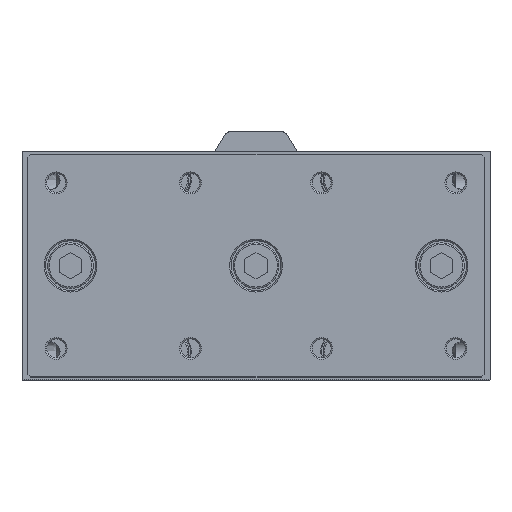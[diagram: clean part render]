
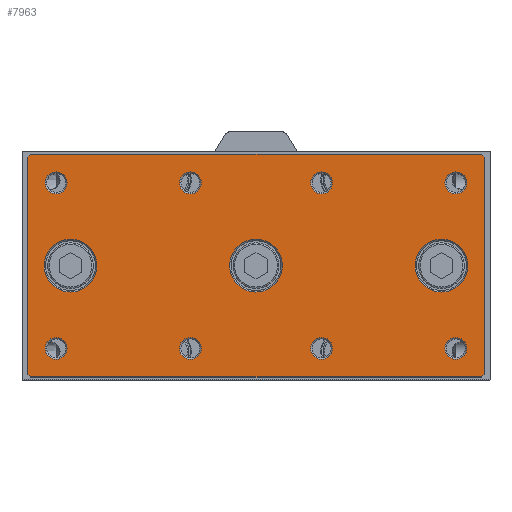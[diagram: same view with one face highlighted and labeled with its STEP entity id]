
A CAD part, top view. The second image highlights one B-rep face of the part: STEP entity #7963.
In plain terms, the highlighted planar face has unit normal (0, 0, 1).
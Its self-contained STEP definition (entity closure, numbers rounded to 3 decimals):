
#7745=CARTESIAN_POINT('',(-78.641,-40.316,225.5));
#7746=VERTEX_POINT('',#7745);
#7747=CARTESIAN_POINT('',(-79.641,-39.316,225.5));
#7748=VERTEX_POINT('',#7747);
#7749=CARTESIAN_POINT('',(-78.641,-40.316,225.5));
#7750=DIRECTION('',(-0.707,0.707,0.0));
#7751=VECTOR('',#7750,1.414);
#7752=LINE('',#7749,#7751);
#7753=EDGE_CURVE('',#7746,#7748,#7752,.T.);
#7780=CARTESIAN_POINT('',(0.359,-1.316,225.5));
#7781=DIRECTION('',(0.0,0.0,1.0));
#7782=DIRECTION('',(1.0,0.0,0.0));
#7783=AXIS2_PLACEMENT_3D('',#7780,#7781,#7782);
#7784=PLANE('',#7783);
#7785=ORIENTED_EDGE('',*,*,#7753,.F.);
#7786=CARTESIAN_POINT('',(79.359,-40.316,225.5));
#7787=VERTEX_POINT('',#7786);
#7788=CARTESIAN_POINT('',(79.359,-40.316,225.5));
#7789=DIRECTION('',(-1.0,0.0,0.0));
#7790=VECTOR('',#7789,158.0);
#7791=LINE('',#7788,#7790);
#7792=EDGE_CURVE('',#7787,#7746,#7791,.T.);
#7793=ORIENTED_EDGE('',*,*,#7792,.F.);
#7794=CARTESIAN_POINT('',(80.359,-39.316,225.5));
#7795=VERTEX_POINT('',#7794);
#7796=CARTESIAN_POINT('',(80.359,-39.316,225.5));
#7797=DIRECTION('',(-0.707,-0.707,0.0));
#7798=VECTOR('',#7797,1.414);
#7799=LINE('',#7796,#7798);
#7800=EDGE_CURVE('',#7795,#7787,#7799,.T.);
#7801=ORIENTED_EDGE('',*,*,#7800,.F.);
#7802=CARTESIAN_POINT('',(80.359,36.684,225.5));
#7803=VERTEX_POINT('',#7802);
#7804=CARTESIAN_POINT('',(80.359,36.684,225.5));
#7805=DIRECTION('',(0.0,-1.0,0.0));
#7806=VECTOR('',#7805,76.);
#7807=LINE('',#7804,#7806);
#7808=EDGE_CURVE('',#7803,#7795,#7807,.T.);
#7809=ORIENTED_EDGE('',*,*,#7808,.F.);
#7810=CARTESIAN_POINT('',(79.359,37.684,225.5));
#7811=VERTEX_POINT('',#7810);
#7812=CARTESIAN_POINT('',(79.359,37.684,225.5));
#7813=DIRECTION('',(0.707,-0.707,0.0));
#7814=VECTOR('',#7813,1.414);
#7815=LINE('',#7812,#7814);
#7816=EDGE_CURVE('',#7811,#7803,#7815,.T.);
#7817=ORIENTED_EDGE('',*,*,#7816,.F.);
#7818=CARTESIAN_POINT('',(-78.641,37.684,225.5));
#7819=VERTEX_POINT('',#7818);
#7820=CARTESIAN_POINT('',(-78.641,37.684,225.5));
#7821=DIRECTION('',(1.0,0.0,0.0));
#7822=VECTOR('',#7821,158.0);
#7823=LINE('',#7820,#7822);
#7824=EDGE_CURVE('',#7819,#7811,#7823,.T.);
#7825=ORIENTED_EDGE('',*,*,#7824,.F.);
#7826=CARTESIAN_POINT('',(-79.641,36.684,225.5));
#7827=VERTEX_POINT('',#7826);
#7828=CARTESIAN_POINT('',(-79.641,36.684,225.5));
#7829=DIRECTION('',(0.707,0.707,0.0));
#7830=VECTOR('',#7829,1.414);
#7831=LINE('',#7828,#7830);
#7832=EDGE_CURVE('',#7827,#7819,#7831,.T.);
#7833=ORIENTED_EDGE('',*,*,#7832,.F.);
#7834=CARTESIAN_POINT('',(-79.641,-39.316,225.5));
#7835=DIRECTION('',(0.0,1.0,0.0));
#7836=VECTOR('',#7835,76.0);
#7837=LINE('',#7834,#7836);
#7838=EDGE_CURVE('',#7748,#7827,#7837,.T.);
#7839=ORIENTED_EDGE('',*,*,#7838,.F.);
#7840=EDGE_LOOP('',(#7785,#7793,#7801,#7809,#7817,#7825,#7833,#7839));
#7841=FACE_OUTER_BOUND('',#7840,.T.);
#7842=CARTESIAN_POINT('',(-65.818,27.684,225.5));
#7843=VERTEX_POINT('',#7842);
#7844=CARTESIAN_POINT('',(-69.641,27.684,225.5));
#7845=DIRECTION('',(0.0,0.0,1.0));
#7846=DIRECTION('',(-1.0,0.0,0.0));
#7847=AXIS2_PLACEMENT_3D('',#7844,#7845,#7846);
#7848=CIRCLE('',#7847,3.823);
#7849=EDGE_CURVE('',#7843,#7843,#7848,.T.);
#7850=ORIENTED_EDGE('',*,*,#7849,.F.);
#7851=EDGE_LOOP('',(#7850));
#7852=FACE_BOUND('',#7851,.T.);
#7853=CARTESIAN_POINT('',(-18.818,27.684,225.5));
#7854=VERTEX_POINT('',#7853);
#7855=CARTESIAN_POINT('',(-22.641,27.684,225.5));
#7856=DIRECTION('',(0.0,0.0,1.0));
#7857=DIRECTION('',(-1.0,0.0,0.0));
#7858=AXIS2_PLACEMENT_3D('',#7855,#7856,#7857);
#7859=CIRCLE('',#7858,3.823);
#7860=EDGE_CURVE('',#7854,#7854,#7859,.T.);
#7861=ORIENTED_EDGE('',*,*,#7860,.F.);
#7862=EDGE_LOOP('',(#7861));
#7863=FACE_BOUND('',#7862,.T.);
#7864=CARTESIAN_POINT('',(9.609,-1.316,225.5));
#7865=VERTEX_POINT('',#7864);
#7866=CARTESIAN_POINT('',(0.359,-1.316,225.5));
#7867=DIRECTION('',(0.0,0.0,1.0));
#7868=DIRECTION('',(-1.0,0.0,0.0));
#7869=AXIS2_PLACEMENT_3D('',#7866,#7867,#7868);
#7870=CIRCLE('',#7869,9.25);
#7871=EDGE_CURVE('',#7865,#7865,#7870,.T.);
#7872=ORIENTED_EDGE('',*,*,#7871,.F.);
#7873=EDGE_LOOP('',(#7872));
#7874=FACE_BOUND('',#7873,.T.);
#7875=CARTESIAN_POINT('',(74.609,-1.316,225.5));
#7876=VERTEX_POINT('',#7875);
#7877=CARTESIAN_POINT('',(65.359,-1.316,225.5));
#7878=DIRECTION('',(0.0,0.0,1.0));
#7879=DIRECTION('',(-1.0,0.0,0.0));
#7880=AXIS2_PLACEMENT_3D('',#7877,#7878,#7879);
#7881=CIRCLE('',#7880,9.25);
#7882=EDGE_CURVE('',#7876,#7876,#7881,.T.);
#7883=ORIENTED_EDGE('',*,*,#7882,.F.);
#7884=EDGE_LOOP('',(#7883));
#7885=FACE_BOUND('',#7884,.T.);
#7886=CARTESIAN_POINT('',(-55.391,-1.316,225.5));
#7887=VERTEX_POINT('',#7886);
#7888=CARTESIAN_POINT('',(-64.641,-1.316,225.5));
#7889=DIRECTION('',(0.0,0.0,1.0));
#7890=DIRECTION('',(-1.0,0.0,0.0));
#7891=AXIS2_PLACEMENT_3D('',#7888,#7889,#7890);
#7892=CIRCLE('',#7891,9.25);
#7893=EDGE_CURVE('',#7887,#7887,#7892,.T.);
#7894=ORIENTED_EDGE('',*,*,#7893,.F.);
#7895=EDGE_LOOP('',(#7894));
#7896=FACE_BOUND('',#7895,.T.);
#7897=CARTESIAN_POINT('',(74.182,-30.316,225.5));
#7898=VERTEX_POINT('',#7897);
#7899=CARTESIAN_POINT('',(70.359,-30.316,225.5));
#7900=DIRECTION('',(0.0,0.0,1.0));
#7901=DIRECTION('',(-1.0,0.0,0.0));
#7902=AXIS2_PLACEMENT_3D('',#7899,#7900,#7901);
#7903=CIRCLE('',#7902,3.823);
#7904=EDGE_CURVE('',#7898,#7898,#7903,.T.);
#7905=ORIENTED_EDGE('',*,*,#7904,.F.);
#7906=EDGE_LOOP('',(#7905));
#7907=FACE_BOUND('',#7906,.T.);
#7908=CARTESIAN_POINT('',(-65.818,-30.316,225.5));
#7909=VERTEX_POINT('',#7908);
#7910=CARTESIAN_POINT('',(-69.641,-30.316,225.5));
#7911=DIRECTION('',(0.0,0.0,1.0));
#7912=DIRECTION('',(-1.0,0.0,0.0));
#7913=AXIS2_PLACEMENT_3D('',#7910,#7911,#7912);
#7914=CIRCLE('',#7913,3.823);
#7915=EDGE_CURVE('',#7909,#7909,#7914,.T.);
#7916=ORIENTED_EDGE('',*,*,#7915,.F.);
#7917=EDGE_LOOP('',(#7916));
#7918=FACE_BOUND('',#7917,.T.);
#7919=CARTESIAN_POINT('',(74.182,27.684,225.5));
#7920=VERTEX_POINT('',#7919);
#7921=CARTESIAN_POINT('',(70.359,27.684,225.5));
#7922=DIRECTION('',(0.0,0.0,1.0));
#7923=DIRECTION('',(-1.0,0.0,0.0));
#7924=AXIS2_PLACEMENT_3D('',#7921,#7922,#7923);
#7925=CIRCLE('',#7924,3.823);
#7926=EDGE_CURVE('',#7920,#7920,#7925,.T.);
#7927=ORIENTED_EDGE('',*,*,#7926,.F.);
#7928=EDGE_LOOP('',(#7927));
#7929=FACE_BOUND('',#7928,.T.);
#7930=CARTESIAN_POINT('',(27.182,-30.316,225.5));
#7931=VERTEX_POINT('',#7930);
#7932=CARTESIAN_POINT('',(23.359,-30.316,225.5));
#7933=DIRECTION('',(0.0,0.0,1.0));
#7934=DIRECTION('',(-1.0,0.0,0.0));
#7935=AXIS2_PLACEMENT_3D('',#7932,#7933,#7934);
#7936=CIRCLE('',#7935,3.824);
#7937=EDGE_CURVE('',#7931,#7931,#7936,.T.);
#7938=ORIENTED_EDGE('',*,*,#7937,.F.);
#7939=EDGE_LOOP('',(#7938));
#7940=FACE_BOUND('',#7939,.T.);
#7941=CARTESIAN_POINT('',(-18.818,-30.316,225.5));
#7942=VERTEX_POINT('',#7941);
#7943=CARTESIAN_POINT('',(-22.641,-30.316,225.5));
#7944=DIRECTION('',(0.0,0.0,1.0));
#7945=DIRECTION('',(-1.0,0.0,0.0));
#7946=AXIS2_PLACEMENT_3D('',#7943,#7944,#7945);
#7947=CIRCLE('',#7946,3.823);
#7948=EDGE_CURVE('',#7942,#7942,#7947,.T.);
#7949=ORIENTED_EDGE('',*,*,#7948,.F.);
#7950=EDGE_LOOP('',(#7949));
#7951=FACE_BOUND('',#7950,.T.);
#7952=CARTESIAN_POINT('',(27.182,27.684,225.5));
#7953=VERTEX_POINT('',#7952);
#7954=CARTESIAN_POINT('',(23.359,27.684,225.5));
#7955=DIRECTION('',(0.0,0.0,1.0));
#7956=DIRECTION('',(-1.0,0.0,0.0));
#7957=AXIS2_PLACEMENT_3D('',#7954,#7955,#7956);
#7958=CIRCLE('',#7957,3.824);
#7959=EDGE_CURVE('',#7953,#7953,#7958,.T.);
#7960=ORIENTED_EDGE('',*,*,#7959,.F.);
#7961=EDGE_LOOP('',(#7960));
#7962=FACE_BOUND('',#7961,.T.);
#7963=ADVANCED_FACE('',(#7841,#7852,#7863,#7874,#7885,#7896,#7907,#7918,#7929,#7940,#7951,#7962),#7784,.T.);
